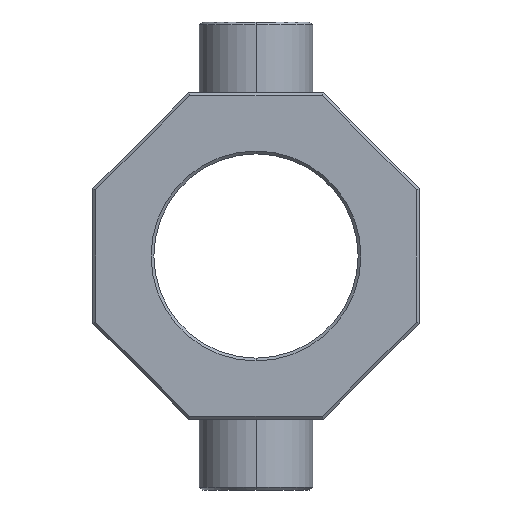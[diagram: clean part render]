
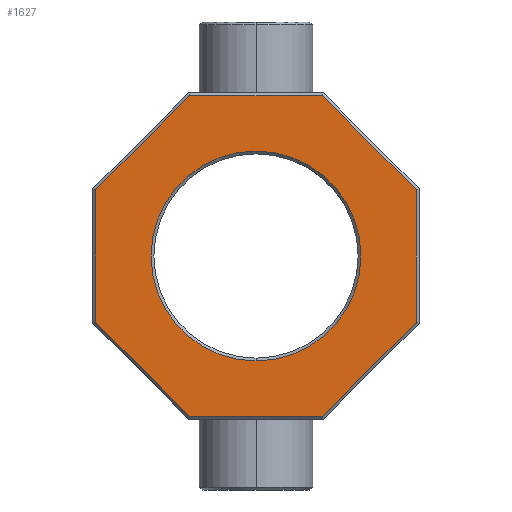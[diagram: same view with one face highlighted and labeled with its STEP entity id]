
A CAD part, left-side view. The second image highlights one B-rep face of the part: STEP entity #1627.
In plain terms, the highlighted planar face has unit normal (-1, 0, 0).
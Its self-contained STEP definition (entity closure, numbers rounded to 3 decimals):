
#16 = VECTOR ( 'NONE', #341, 1000. ) ;
#22 = CARTESIAN_POINT ( 'NONE',  ( -25., -23.403, 56.5 ) ) ;
#53 = DIRECTION ( 'NONE',  ( 0., 0., -1. ) ) ;
#54 = ORIENTED_EDGE ( 'NONE', *, *, #433, .T. ) ;
#59 = DIRECTION ( 'NONE',  ( 0., 0.707, -0.707 ) ) ;
#93 = LINE ( 'NONE', #1476, #717 ) ;
#144 = CARTESIAN_POINT ( 'NONE',  ( -25., -23.817, -56.5 ) ) ;
#160 = LINE ( 'NONE', #463, #614 ) ;
#172 = VECTOR ( 'NONE', #2061, 1000. ) ;
#185 = CARTESIAN_POINT ( 'NONE',  ( -25., -23.403, -56.5 ) ) ;
#192 = EDGE_LOOP ( 'NONE', ( #832, #666, #1647, #727, #1324, #1149, #1029, #54 ) ) ;
#208 = CIRCLE ( 'NONE', #1806, 37. ) ;
#217 = CARTESIAN_POINT ( 'NONE',  ( -25., -56.5, 23.817 ) ) ;
#281 = CARTESIAN_POINT ( 'NONE',  ( -25., 0., 0. ) ) ;
#341 = DIRECTION ( 'NONE',  ( 0., 0.707, 0.707 ) ) ;
#356 = DIRECTION ( 'NONE',  ( 0., 0., 1. ) ) ;
#432 = VERTEX_POINT ( 'NONE', #652 ) ;
#433 = EDGE_CURVE ( 'NONE', #1931, #1698, #1432, .T. ) ;
#449 = CARTESIAN_POINT ( 'NONE',  ( -25., 23.11, -56.793 ) ) ;
#463 = CARTESIAN_POINT ( 'NONE',  ( -25., 23.817, 56.5 ) ) ;
#472 = VECTOR ( 'NONE', #922, 1000. ) ;
#498 = CARTESIAN_POINT ( 'NONE',  ( -25., 56.5, -23.403 ) ) ;
#506 = EDGE_CURVE ( 'NONE', #1959, #432, #873, .T. ) ;
#524 = CARTESIAN_POINT ( 'NONE',  ( -25., -23.11, 56.793 ) ) ;
#614 = VECTOR ( 'NONE', #1905, 1000. ) ;
#652 = CARTESIAN_POINT ( 'NONE',  ( -25., 56.5, 23.403 ) ) ;
#666 = ORIENTED_EDGE ( 'NONE', *, *, #1862, .T. ) ;
#676 = VERTEX_POINT ( 'NONE', #2051 ) ;
#690 = CARTESIAN_POINT ( 'NONE',  ( -25., 0., 0. ) ) ;
#716 = CARTESIAN_POINT ( 'NONE',  ( -25., 23.403, 56.5 ) ) ;
#717 = VECTOR ( 'NONE', #53, 1000. ) ;
#727 = ORIENTED_EDGE ( 'NONE', *, *, #506, .T. ) ;
#731 = DIRECTION ( 'NONE',  ( 0., 0., -1. ) ) ;
#754 = CIRCLE ( 'NONE', #1474, 37. ) ;
#767 = DIRECTION ( 'NONE',  ( 0., 0., -1. ) ) ;
#800 = DIRECTION ( 'NONE',  ( 1., 0., 0. ) ) ;
#813 = PLANE ( 'NONE',  #1142 ) ;
#825 = LINE ( 'NONE', #524, #16 ) ;
#832 = ORIENTED_EDGE ( 'NONE', *, *, #1742, .T. ) ;
#864 = DIRECTION ( 'NONE',  ( 0., -0.707, 0.707 ) ) ;
#873 = LINE ( 'NONE', #1028, #1080 ) ;
#914 = VECTOR ( 'NONE', #864, 1000. ) ;
#922 = DIRECTION ( 'NONE',  ( 0., -0.707, -0.707 ) ) ;
#1010 = VERTEX_POINT ( 'NONE', #2036 ) ;
#1028 = CARTESIAN_POINT ( 'NONE',  ( -25., 56.793, 23.11 ) ) ;
#1029 = ORIENTED_EDGE ( 'NONE', *, *, #1564, .T. ) ;
#1080 = VECTOR ( 'NONE', #59, 1000. ) ;
#1084 = EDGE_CURVE ( 'NONE', #1128, #1479, #2027, .T. ) ;
#1090 = ORIENTED_EDGE ( 'NONE', *, *, #1779, .T. ) ;
#1109 = VECTOR ( 'NONE', #356, 1000. ) ;
#1128 = VERTEX_POINT ( 'NONE', #498 ) ;
#1130 = FACE_OUTER_BOUND ( 'NONE', #192, .T. ) ;
#1142 = AXIS2_PLACEMENT_3D ( 'NONE', #1925, #800, #1260 ) ;
#1149 = ORIENTED_EDGE ( 'NONE', *, *, #1084, .T. ) ;
#1260 = DIRECTION ( 'NONE',  ( 0., 0., -1. ) ) ;
#1283 = CARTESIAN_POINT ( 'NONE',  ( -25., -56.793, -23.11 ) ) ;
#1286 = FACE_BOUND ( 'NONE', #1434, .T. ) ;
#1323 = DIRECTION ( 'NONE',  ( 1., 0., 0. ) ) ;
#1324 = ORIENTED_EDGE ( 'NONE', *, *, #1762, .T. ) ;
#1429 = LINE ( 'NONE', #144, #172 ) ;
#1432 = LINE ( 'NONE', #1283, #914 ) ;
#1434 = EDGE_LOOP ( 'NONE', ( #1483, #1090 ) ) ;
#1474 = AXIS2_PLACEMENT_3D ( 'NONE', #690, #1323, #731 ) ;
#1476 = CARTESIAN_POINT ( 'NONE',  ( -25., 56.5, -23.817 ) ) ;
#1479 = VERTEX_POINT ( 'NONE', #1882 ) ;
#1483 = ORIENTED_EDGE ( 'NONE', *, *, #1484, .T. ) ;
#1484 = EDGE_CURVE ( 'NONE', #2022, #676, #208, .T. ) ;
#1513 = CARTESIAN_POINT ( 'NONE',  ( -25., 0., 37. ) ) ;
#1555 = DIRECTION ( 'NONE',  ( 1., 0., 0. ) ) ;
#1564 = EDGE_CURVE ( 'NONE', #1479, #1931, #1429, .T. ) ;
#1583 = EDGE_CURVE ( 'NONE', #1665, #1959, #160, .T. ) ;
#1627 = ADVANCED_FACE ( 'NONE', ( #1130, #1286 ), #813, .F. ) ;
#1647 = ORIENTED_EDGE ( 'NONE', *, *, #1583, .T. ) ;
#1665 = VERTEX_POINT ( 'NONE', #22 ) ;
#1698 = VERTEX_POINT ( 'NONE', #1788 ) ;
#1742 = EDGE_CURVE ( 'NONE', #1698, #1010, #1934, .T. ) ;
#1762 = EDGE_CURVE ( 'NONE', #432, #1128, #93, .T. ) ;
#1779 = EDGE_CURVE ( 'NONE', #676, #2022, #754, .T. ) ;
#1788 = CARTESIAN_POINT ( 'NONE',  ( -25., -56.5, -23.403 ) ) ;
#1806 = AXIS2_PLACEMENT_3D ( 'NONE', #281, #1555, #767 ) ;
#1862 = EDGE_CURVE ( 'NONE', #1010, #1665, #825, .T. ) ;
#1882 = CARTESIAN_POINT ( 'NONE',  ( -25., 23.403, -56.5 ) ) ;
#1905 = DIRECTION ( 'NONE',  ( 0., 1., 0. ) ) ;
#1925 = CARTESIAN_POINT ( 'NONE',  ( -25., 0., 0. ) ) ;
#1931 = VERTEX_POINT ( 'NONE', #185 ) ;
#1934 = LINE ( 'NONE', #217, #1109 ) ;
#1959 = VERTEX_POINT ( 'NONE', #716 ) ;
#2022 = VERTEX_POINT ( 'NONE', #1513 ) ;
#2027 = LINE ( 'NONE', #449, #472 ) ;
#2036 = CARTESIAN_POINT ( 'NONE',  ( -25., -56.5, 23.403 ) ) ;
#2051 = CARTESIAN_POINT ( 'NONE',  ( -25., 0., -37. ) ) ;
#2061 = DIRECTION ( 'NONE',  ( 0., -1., 0. ) ) ;
